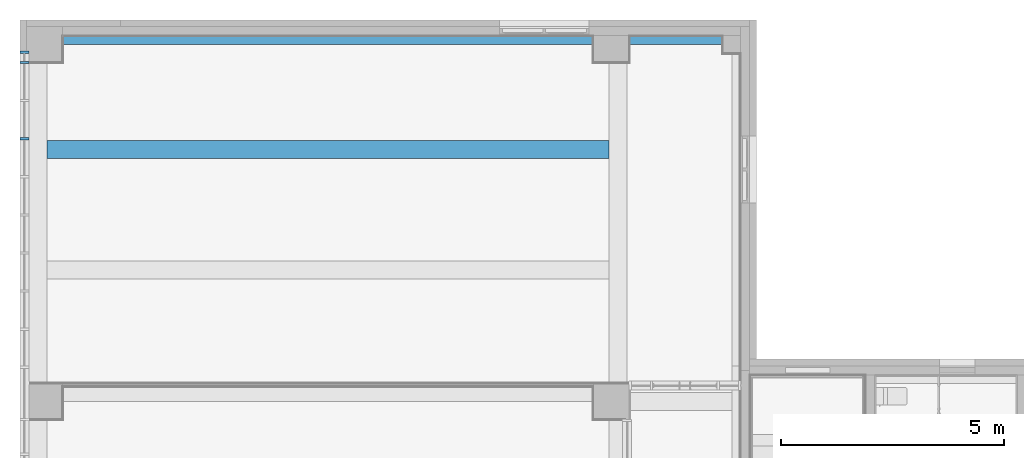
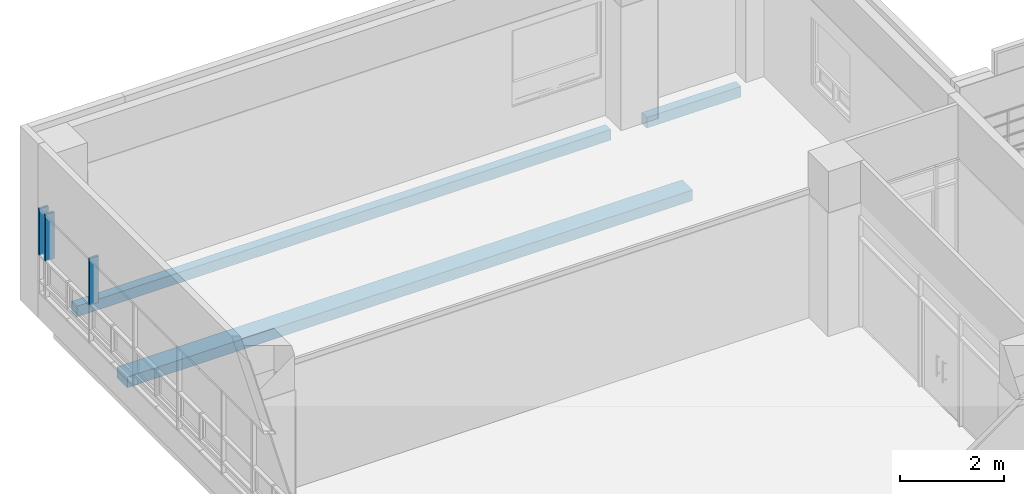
# One storey, part 8 of 82: 3 beams, 3 members, 1 element without a shape of its own.
"""IFC2X3 building model written with IfcOpenShell, lengths in millimetres."""

from ifc_helpers import new_model, entity, si_unit, converted_unit, derived_unit, direction, frame, frame_2d, origin, origin_2d_with_axis, place, context, subcontext, project, spatial, rectangle, extrude, source, transform, mapped, material, type_object, type_shapes, element, aggregate, save


model = new_model("IFC2X3")

# Units and contexts
model_context = context("Model", 3, precision=0.01, world=origin(), true_north=direction((6.123031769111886e-17, 1.0)))
body_context = subcontext(model_context, "Body", "Model", "MODEL_VIEW")
ifc_project = project(units=[si_unit("LENGTHUNIT", "METRE", prefix="MILLI"), si_unit("AREAUNIT", "SQUARE_METRE"), si_unit("VOLUMEUNIT", "CUBIC_METRE"), converted_unit("PLANEANGLEUNIT", "DEGREE", entity("IfcRatioMeasure", 0.017453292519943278), si_unit("PLANEANGLEUNIT", "RADIAN"), dimensions=[0, 0, 0, 0, 0, 0, 0]), si_unit("MASSUNIT", "GRAM", prefix="KILO"), derived_unit("MASSDENSITYUNIT", [(si_unit("MASSUNIT", "GRAM", prefix="KILO"), 1), (si_unit("LENGTHUNIT", "METRE"), -3)]), derived_unit("MOMENTOFINERTIAUNIT", [(si_unit("LENGTHUNIT", "METRE"), 4)]), si_unit("TIMEUNIT", "SECOND"), si_unit("FREQUENCYUNIT", "HERTZ"), si_unit("THERMODYNAMICTEMPERATUREUNIT", "DEGREE_CELSIUS"), derived_unit("THERMALTRANSMITTANCEUNIT", [(si_unit("MASSUNIT", "GRAM", prefix="KILO"), 1), (si_unit("THERMODYNAMICTEMPERATUREUNIT", "KELVIN"), -1), (si_unit("TIMEUNIT", "SECOND"), -3)]), derived_unit("VOLUMETRICFLOWRATEUNIT", [(si_unit("LENGTHUNIT", "METRE"), 3), (si_unit("TIMEUNIT", "SECOND"), -1)]), derived_unit("MASSFLOWRATEUNIT", [(si_unit("MASSUNIT", "GRAM", prefix="KILO"), 1), (si_unit("TIMEUNIT", "SECOND"), -1)]), derived_unit("ROTATIONALFREQUENCYUNIT", [(si_unit("TIMEUNIT", "SECOND"), -1)]), si_unit("ELECTRICCURRENTUNIT", "AMPERE"), si_unit("ELECTRICVOLTAGEUNIT", "VOLT"), si_unit("POWERUNIT", "WATT"), si_unit("FORCEUNIT", "NEWTON", prefix="KILO"), si_unit("ILLUMINANCEUNIT", "LUX"), si_unit("LUMINOUSFLUXUNIT", "LUMEN"), si_unit("LUMINOUSINTENSITYUNIT", "CANDELA"), derived_unit("USERDEFINED", [(si_unit("MASSUNIT", "GRAM", prefix="KILO"), -1), (si_unit("LENGTHUNIT", "METRE"), -2), (si_unit("TIMEUNIT", "SECOND"), 3), (si_unit("LUMINOUSFLUXUNIT", "LUMEN"), 1)]), derived_unit("SOUNDPOWERUNIT", [(si_unit("MASSUNIT", "GRAM", prefix="KILO"), 1), (si_unit("LENGTHUNIT", "METRE"), 2), (si_unit("TIMEUNIT", "SECOND"), -3)]), derived_unit("SOUNDPRESSUREUNIT", [(si_unit("MASSUNIT", "GRAM", prefix="KILO"), 1), (si_unit("LENGTHUNIT", "METRE"), -1), (si_unit("TIMEUNIT", "SECOND"), -2)]), derived_unit("LINEARVELOCITYUNIT", [(si_unit("LENGTHUNIT", "METRE"), 1), (si_unit("TIMEUNIT", "SECOND"), -1)]), si_unit("PRESSUREUNIT", "PASCAL"), derived_unit("USERDEFINED", [(si_unit("LENGTHUNIT", "METRE"), -2), (si_unit("MASSUNIT", "GRAM", prefix="KILO"), 1), (si_unit("TIMEUNIT", "SECOND"), -2)]), derived_unit("LINEARFORCEUNIT", [(si_unit("MASSUNIT", "GRAM", prefix="KILO"), 1), (si_unit("LENGTHUNIT", "METRE"), 1), (si_unit("TIMEUNIT", "SECOND"), -2), (si_unit("LENGTHUNIT", "METRE"), -1)]), derived_unit("PLANARFORCEUNIT", [(si_unit("MASSUNIT", "GRAM", prefix="KILO"), 1), (si_unit("LENGTHUNIT", "METRE"), 1), (si_unit("TIMEUNIT", "SECOND"), -2), (si_unit("LENGTHUNIT", "METRE"), -2)])], contexts=[model_context])

# Site, building, storey
site_placement = place(None, frame((-14167.972527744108, -657.2125860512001, 0.0)))
site = spatial("IfcSite", under=ifc_project, at=site_placement, Name="Default", CompositionType="ELEMENT")
building_placement = place(site_placement, origin())
building = spatial("IfcBuilding", under=site, at=building_placement, Name="Sample Building", CompositionType="ELEMENT")
storey_placement = place(building_placement, frame((0.0, 0.0, 17500.0)))
storey = spatial("IfcBuildingStorey", under=building, at=storey_placement, Name="지상 5층", CompositionType="ELEMENT", Elevation=17500.00000000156)

# Curtain wall, members
curtain_wall_type = type_object("IfcCurtainWallType", Name="커튼월:CW112-스테인리스 스틸 커튼월", PredefinedType="NOTDEFINED")
curtain_wall_placement = place(storey_placement, frame((0.0, 0.0, -17500.0)))
curtain_wall = element("IfcCurtainWall", 1, at=curtain_wall_placement, inside=storey, type_object=curtain_wall_type, Name="커튼월:CW112-스테인리스 스틸 커튼월", ObjectType="커튼월:CW112-스테인리스 스틸 커튼월")
ifc_material_1 = material(Name="<Unnamed>")
member_type_1 = type_object("IfcMemberType", Name="직사각형 멀리언:CW200-직사각형 멀리언 50x200mm", PredefinedType="MULLION", material=ifc_material_1)
shared_shape_1 = source(origin(), body_context, "Body", "SweptSolid", [
    extrude(rectangle(XDim=200.0, YDim=50.0, at=origin_2d_with_axis()), frame((-25.0, 0.0, -1100.0), z_axis=(0.0, 0.0, 1.0), x_axis=(0.0, -1.0, 0.0)), (0.0, 0.0, 1.0), 1100.0000000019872),
])
type_shapes(member_type_1, [shared_shape_1])
member_1_placement = place(curtain_wall_placement, frame((14017.33965484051, 35207.21229514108, 20100.0), z_axis=(0.0, 0.0, 1.0), x_axis=(0.0, 1.0, 0.0)))
member_1 = element("IfcMember", 2, at=member_1_placement, type_object=member_type_1, material=ifc_material_1, Name="직사각형 멀리언:CW200-직사각형 멀리언 50x200mm", ObjectType="직사각형 멀리언:CW200-직사각형 멀리언 50x200mm", context=body_context, shape_type="MappedRepresentation", body=[
    mapped(shared_shape_1, transform((0.0, 0.0, 0.0), scale=1.0)),
])
member_type_2 = type_object("IfcMemberType", Name="직사각형 멀리언:CW200-직사각형 멀리언 50x200mm", PredefinedType="MULLION", material=ifc_material_1)
shared_shape_2 = source(origin(), body_context, "Body", "SweptSolid", [
    extrude(rectangle(XDim=200.0, YDim=50.0, at=origin_2d_with_axis()), frame((0.0, 0.0, -1100.0), z_axis=(0.0, 0.0, 1.0), x_axis=(0.0, -1.0, 0.0)), (0.0, 0.0, 1.0), 1100.0000000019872),
])
type_shapes(member_type_2, [shared_shape_2])
member_2_placement = place(curtain_wall_placement, frame((14017.33965484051, 34953.81770709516, 19000.0), z_axis=(0.0, 0.0, -1.0), x_axis=(0.0, -1.0, 0.0)))
member_2 = element("IfcMember", 3, at=member_2_placement, type_object=member_type_2, material=ifc_material_1, Name="직사각형 멀리언:CW200-직사각형 멀리언 50x200mm", ObjectType="직사각형 멀리언:CW200-직사각형 멀리언 50x200mm", context=body_context, shape_type="MappedRepresentation", body=[
    mapped(shared_shape_2, transform((0.0, 0.0, 0.0), scale=1.0)),
])
member_3_placement = place(curtain_wall_placement, frame((14017.339654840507, 33246.81770709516, 19000.0), z_axis=(0.0, 0.0, -1.0), x_axis=(0.0, -1.0, 0.0)))
member_3 = element("IfcMember", 4, at=member_3_placement, type_object=member_type_2, material=ifc_material_1, Name="직사각형 멀리언:CW200-직사각형 멀리언 50x200mm", ObjectType="직사각형 멀리언:CW200-직사각형 멀리언 50x200mm", context=body_context, shape_type="MappedRepresentation", body=[
    mapped(shared_shape_2, transform((0.0, 0.0, 0.0), scale=1.0)),
])
aggregate(curtain_wall, [member_1, member_2, member_3])

# Beams
ifc_material_2 = material(Name="KBIMS-콘크리트")
beam_type_1 = type_object("IfcBeamType", Name="BM111-철근콘크리트구조 보:BM110-철근 콘크리트구조 보_400 x 400_2-10G7", PredefinedType="NOTDEFINED")
beam_1_placement = place(storey_placement, frame((14867.981136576, 35557.21260419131, 0.0)))
element("IfcBeam", 5, at=beam_1_placement, inside=storey, type_object=beam_type_1, material=ifc_material_2, Name="BM111-철근콘크리트구조 보:BM110-철근 콘크리트구조 보_400 x 400_2-10G7", ObjectType="BM111-철근콘크리트구조 보:BM110-철근 콘크리트구조 보_400 x 400_2-10G7", context=body_context, shape_type="SweptSolid", body=[
    extrude(rectangle(XDim=250.00000000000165, YDim=199.99969094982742, at=frame_2d((-1.0871303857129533e-12, 4.334310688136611e-12), x_axis=(1.0, 0.0))), frame((0.0, -100.00015452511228, -275.0), z_axis=(1.0, 0.0, 0.0), x_axis=(0.0, 0.0, -1.0)), (0.0, 0.0, 1.0), 11899.974005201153),
])
beam_type_2 = type_object("IfcBeamType", Name="BM111-철근콘크리트구조 보:BM110-철근 콘크리트구조 보_400 x 400_2-10G8", PredefinedType="NOTDEFINED")
beam_2_placement = place(storey_placement, frame((29667.93775580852, 35557.21260419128, 0.0), z_axis=(0.0, 0.0, 1.0), x_axis=(-1.0, 0.0, 0.0)))
element("IfcBeam", 6, at=beam_2_placement, inside=storey, type_object=beam_type_2, material=ifc_material_2, Name="BM111-철근콘크리트구조 보:BM110-철근 콘크리트구조 보_400 x 400_2-10G8", ObjectType="BM111-철근콘크리트구조 보:BM110-철근 콘크리트구조 보_400 x 400_2-10G8", context=body_context, shape_type="SweptSolid", body=[
    extrude(rectangle(XDim=250.00000000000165, YDim=199.99969094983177, at=frame_2d((-1.0871303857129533e-12, 4.32720526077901e-12), x_axis=(1.0, 0.0))), frame((0.0, 100.00015452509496, -275.0), z_axis=(1.0, 0.0, 0.0), x_axis=(0.0, 0.0, -1.0)), (0.0, 0.0, 1.0), 2099.9826140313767),
])
beam_type_3 = type_object("IfcBeamType", Name="BM111-철근콘크리트구조 보:BM110-철근 콘크리트구조 보_400 x 400_2-10B3", PredefinedType="NOTDEFINED")
beam_3_placement = place(storey_placement, frame((14317.955221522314, 33007.21247892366, 0.0)))
element("IfcBeam", 7, at=beam_3_placement, inside=storey, type_object=beam_type_3, material=ifc_material_2, Name="BM111-철근콘크리트구조 보:BM110-철근 콘크리트구조 보_400 x 400_2-10B3", ObjectType="BM111-철근콘크리트구조 보:BM110-철근 콘크리트구조 보_400 x 400_2-10B3", context=body_context, shape_type="SweptSolid", body=[
    extrude(rectangle(XDim=250.00000000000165, YDim=400.0000000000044, at=frame_2d((-1.0800249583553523e-12, 0.0), x_axis=(1.0, 0.0))), frame((200.0, 0.0, -275.0), z_axis=(1.0, 0.0, 0.0), x_axis=(0.0, 0.0, -1.0)), (0.0, 0.0, 1.0), 12600.10657854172),
])

save(model, "model.ifc")
